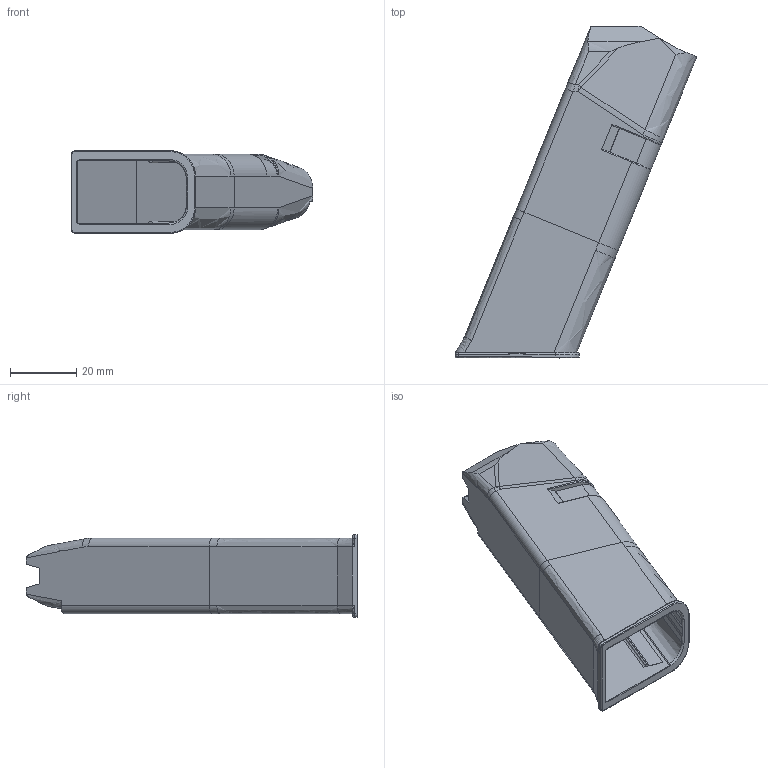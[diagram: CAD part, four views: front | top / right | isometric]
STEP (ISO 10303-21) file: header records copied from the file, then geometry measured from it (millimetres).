
FILE_DESCRIPTION(/* description */ (''),/* implementation_level */ '2;1');
FILE_NAME(/* name */ 'C:\Users\johne\Desktop\Menendez Mag 17\STEP\Baby Menenedez Body V1.2.stp',/* time_stamp */ '2019-06-30T13:10:57-05:00',/* author */ ('johne'),/* organization */ (''),/* preprocessor_version */ 'ST-DEVELOPER v16.13',/* originating_system */ 'Autodesk Inventor 2018',/* authorisation */ '');
FILE_SCHEMA (('AUTOMOTIVE_DESIGN { 1 0 10303 214 3 1 1 }'));
Length unit declared in the file: inch
Products named in the file (3): baby menendez; mag bottom; mag top
Assembly tree (2 placements, depth 2):
  baby menendez
    mag bottom
    mag top
Bounding box: 73.04 x 100.3 x 24.87 mm (x, y, z)
Volume: 18082.5 mm3; surface area: 21718.6 mm2
Topology: 4 solids, 6 shells, 443 faces, 1305 edges, 997 vertices
Faces by surface type: plane 250, bspline 135, cylinder 56, cone 2
Entity records: 17327 total; most frequent: CARTESIAN_POINT 6054, ORIENTED_EDGE 2348, DIRECTION 2021, EDGE_CURVE 1173, LINE 759, VECTOR 759, VERTEX_POINT 741, AXIS2_PLACEMENT_3D 631
